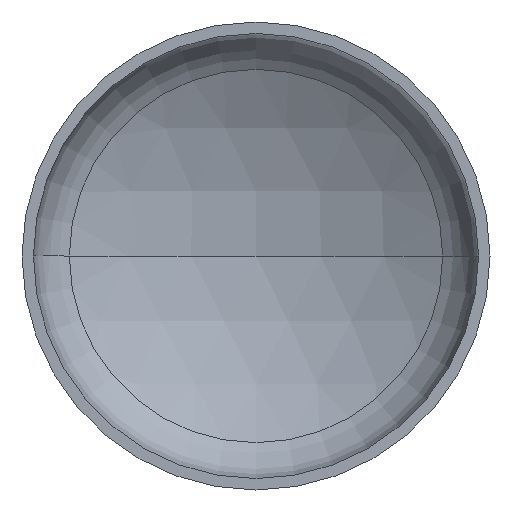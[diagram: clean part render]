
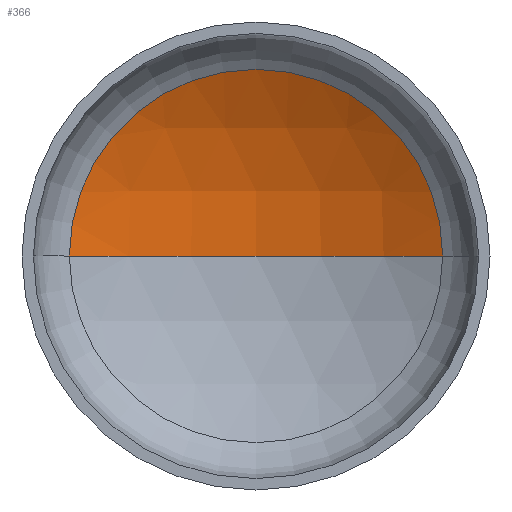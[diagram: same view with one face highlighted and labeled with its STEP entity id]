
A CAD part, front view. The second image highlights one B-rep face of the part: STEP entity #366.
In plain terms, the highlighted spherical face has radius 1280 mm.
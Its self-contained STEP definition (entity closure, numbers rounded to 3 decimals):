
#5 = CARTESIAN_POINT ( 'NONE',  ( 0., 332.381, 0. ) ) ;
#30 = AXIS2_PLACEMENT_3D ( 'NONE', #271, #269, #267 ) ;
#33 = AXIS2_PLACEMENT_3D ( 'NONE', #410, #331, #256 ) ;
#36 = AXIS2_PLACEMENT_3D ( 'NONE', #5, #382, #387 ) ;
#63 = EDGE_LOOP ( 'NONE', ( #91, #73, #111 ) ) ;
#73 = ORIENTED_EDGE ( 'NONE', *, *, #93, .T. ) ;
#76 = VERTEX_POINT ( 'NONE', #336 ) ;
#91 = ORIENTED_EDGE ( 'NONE', *, *, #95, .F. ) ;
#92 = EDGE_CURVE ( 'NONE', #76, #121, #234, .T. ) ;
#93 = EDGE_CURVE ( 'NONE', #123, #76, #169, .T. ) ;
#95 = EDGE_CURVE ( 'NONE', #123, #121, #301, .T. ) ;
#96 = SPHERICAL_SURFACE ( 'NONE', #280, 1280. ) ;
#111 = ORIENTED_EDGE ( 'NONE', *, *, #92, .T. ) ;
#121 = VERTEX_POINT ( 'NONE', #243 ) ;
#123 = VERTEX_POINT ( 'NONE', #242 ) ;
#124 = DIRECTION ( 'NONE',  ( 0., 0., -1. ) ) ;
#169 = CIRCLE ( 'NONE', #33, 1280. ) ;
#214 = CARTESIAN_POINT ( 'NONE',  ( 0., -777.201, 0. ) ) ;
#234 = CIRCLE ( 'NONE', #36, 638.145 ) ;
#242 = CARTESIAN_POINT ( 'NONE',  ( 0., 502.799, 0. ) ) ;
#243 = CARTESIAN_POINT ( 'NONE',  ( -638.145, 332.381, 0. ) ) ;
#245 = FACE_OUTER_BOUND ( 'NONE', #63, .T. ) ;
#256 = DIRECTION ( 'NONE',  ( -1., 0., 0. ) ) ;
#267 = DIRECTION ( 'NONE',  ( 1., 0., 0. ) ) ;
#269 = DIRECTION ( 'NONE',  ( 0., 0., 1. ) ) ;
#271 = CARTESIAN_POINT ( 'NONE',  ( 0., -777.201, 0. ) ) ;
#279 = DIRECTION ( 'NONE',  ( -1., 0., 0. ) ) ;
#280 = AXIS2_PLACEMENT_3D ( 'NONE', #214, #124, #279 ) ;
#301 = CIRCLE ( 'NONE', #30, 1280. ) ;
#331 = DIRECTION ( 'NONE',  ( 0., 0., -1. ) ) ;
#336 = CARTESIAN_POINT ( 'NONE',  ( 638.145, 332.381, 0. ) ) ;
#366 = ADVANCED_FACE ( 'NONE', ( #245 ), #96, .F. ) ;
#382 = DIRECTION ( 'NONE',  ( 0., -1., 0. ) ) ;
#387 = DIRECTION ( 'NONE',  ( 1., 0., 0. ) ) ;
#410 = CARTESIAN_POINT ( 'NONE',  ( 0., -777.201, 0. ) ) ;
